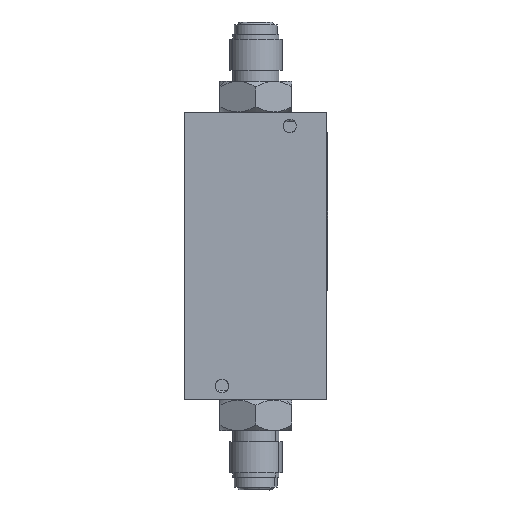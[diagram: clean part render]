
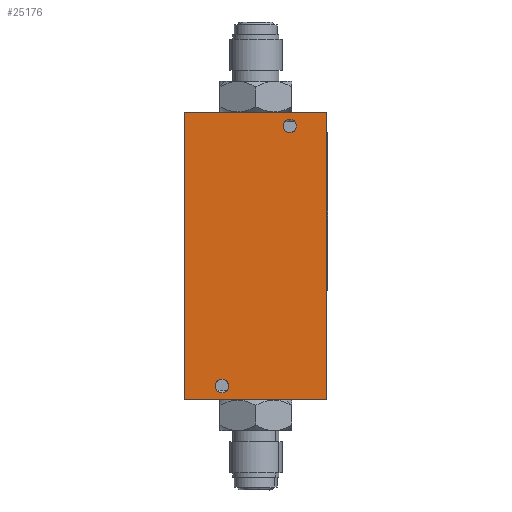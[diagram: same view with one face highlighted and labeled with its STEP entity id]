
A CAD part, front view. The second image highlights one B-rep face of the part: STEP entity #25176.
In plain terms, the highlighted planar face has unit normal (0, -1, 0).
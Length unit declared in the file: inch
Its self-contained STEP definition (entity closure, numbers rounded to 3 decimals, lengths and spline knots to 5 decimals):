
#1127 = EDGE_CURVE ( 'NONE', #116523, #55390, #65206, .T. ) ;
#1957 = CARTESIAN_POINT ( 'NONE',  ( 0., 0., 0. ) ) ;
#3648 = DIRECTION ( 'NONE',  ( 1., 0., 0. ) ) ;
#3760 = AXIS2_PLACEMENT_3D ( 'NONE', #82970, #93089, #28233 ) ;
#7534 = DIRECTION ( 'NONE',  ( 0., 1., 0. ) ) ;
#8928 = LINE ( 'NONE', #63059, #105878 ) ;
#10645 = CARTESIAN_POINT ( 'NONE',  ( -0.3539, 0., -2.7917 ) ) ;
#11962 = CARTESIAN_POINT ( 'NONE',  ( 0., 0., -3.006 ) ) ;
#13551 = ORIENTED_EDGE ( 'NONE', *, *, #80349, .T. ) ;
#21190 = VECTOR ( 'NONE', #42739, 39.37008 ) ;
#22920 = DIRECTION ( 'NONE',  ( 0., 1., 0. ) ) ;
#24344 = CIRCLE ( 'NONE', #111915, 0.0693 ) ;
#25130 = ORIENTED_EDGE ( 'NONE', *, *, #1127, .T. ) ;
#25176 = ADVANCED_FACE ( 'NONE', ( #111512, #92971, #48326 ), #113862, .T. ) ;
#26680 = AXIS2_PLACEMENT_3D ( 'NONE', #88761, #35192, #79221 ) ;
#28233 = DIRECTION ( 'NONE',  ( 0., 0., -1. ) ) ;
#29074 = ORIENTED_EDGE ( 'NONE', *, *, #71111, .T. ) ;
#30026 = CARTESIAN_POINT ( 'NONE',  ( -0.7425, 0., -3.006 ) ) ;
#34737 = ORIENTED_EDGE ( 'NONE', *, *, #112766, .T. ) ;
#35192 = DIRECTION ( 'NONE',  ( 0., 1., 0. ) ) ;
#37583 = LINE ( 'NONE', #1957, #54133 ) ;
#40421 = CIRCLE ( 'NONE', #107056, 0.0693 ) ;
#42739 = DIRECTION ( 'NONE',  ( 0., 0., -1. ) ) ;
#45711 = VERTEX_POINT ( 'NONE', #96838 ) ;
#46530 = VERTEX_POINT ( 'NONE', #10645 ) ;
#47732 = CARTESIAN_POINT ( 'NONE',  ( 0., 0., -1.503 ) ) ;
#48326 = FACE_BOUND ( 'NONE', #55923, .T. ) ;
#52655 = CARTESIAN_POINT ( 'NONE',  ( -0.3539, 0., -2.861 ) ) ;
#54133 = VECTOR ( 'NONE', #91750, 39.37008 ) ;
#55390 = VERTEX_POINT ( 'NONE', #30026 ) ;
#55923 = EDGE_LOOP ( 'NONE', ( #34737, #83582 ) ) ;
#59901 = DIRECTION ( 'NONE',  ( 0., 0., -1. ) ) ;
#60987 = CIRCLE ( 'NONE', #26680, 0.0693 ) ;
#61035 = DIRECTION ( 'NONE',  ( 0., 0., -1. ) ) ;
#63059 = CARTESIAN_POINT ( 'NONE',  ( 0.7425, 0., -1.503 ) ) ;
#63117 = VECTOR ( 'NONE', #3648, 39.37008 ) ;
#64058 = CARTESIAN_POINT ( 'NONE',  ( -0.7425, 0., 0. ) ) ;
#65206 = LINE ( 'NONE', #72333, #21190 ) ;
#65403 = VERTEX_POINT ( 'NONE', #89223 ) ;
#67443 = CARTESIAN_POINT ( 'NONE',  ( 0.354, 0., -0.2143 ) ) ;
#68037 = AXIS2_PLACEMENT_3D ( 'NONE', #47732, #94151, #85792 ) ;
#71111 = EDGE_CURVE ( 'NONE', #55390, #45711, #93408, .T. ) ;
#72333 = CARTESIAN_POINT ( 'NONE',  ( -0.7425, 0., -1.503 ) ) ;
#72454 = CARTESIAN_POINT ( 'NONE',  ( 0.7425, 0., 0. ) ) ;
#78245 = CARTESIAN_POINT ( 'NONE',  ( 0.354, 0., -0.145 ) ) ;
#79221 = DIRECTION ( 'NONE',  ( 0., 0., -1. ) ) ;
#79952 = ORIENTED_EDGE ( 'NONE', *, *, #91556, .T. ) ;
#80349 = EDGE_CURVE ( 'NONE', #88137, #116523, #37583, .T. ) ;
#82970 = CARTESIAN_POINT ( 'NONE',  ( -0.3539, 0., -2.861 ) ) ;
#83582 = ORIENTED_EDGE ( 'NONE', *, *, #83924, .T. ) ;
#83924 = EDGE_CURVE ( 'NONE', #46530, #65403, #106356, .T. ) ;
#85792 = DIRECTION ( 'NONE',  ( 0., 0., 1. ) ) ;
#88137 = VERTEX_POINT ( 'NONE', #72454 ) ;
#88761 = CARTESIAN_POINT ( 'NONE',  ( 0.354, 0., -0.145 ) ) ;
#89223 = CARTESIAN_POINT ( 'NONE',  ( -0.3539, 0., -2.9303 ) ) ;
#91556 = EDGE_CURVE ( 'NONE', #94824, #108806, #60987, .T. ) ;
#91750 = DIRECTION ( 'NONE',  ( -1., 0., 0. ) ) ;
#92971 = FACE_BOUND ( 'NONE', #98768, .T. ) ;
#93089 = DIRECTION ( 'NONE',  ( 0., 1., 0. ) ) ;
#93408 = LINE ( 'NONE', #11962, #63117 ) ;
#94151 = DIRECTION ( 'NONE',  ( 0., -1., 0. ) ) ;
#94824 = VERTEX_POINT ( 'NONE', #67443 ) ;
#94929 = ORIENTED_EDGE ( 'NONE', *, *, #109625, .T. ) ;
#96838 = CARTESIAN_POINT ( 'NONE',  ( 0.7425, 0., -3.006 ) ) ;
#98768 = EDGE_LOOP ( 'NONE', ( #79952, #94929 ) ) ;
#100423 = ORIENTED_EDGE ( 'NONE', *, *, #108528, .F. ) ;
#105878 = VECTOR ( 'NONE', #116654, 39.37008 ) ;
#106136 = EDGE_LOOP ( 'NONE', ( #13551, #25130, #29074, #100423 ) ) ;
#106356 = CIRCLE ( 'NONE', #3760, 0.0693 ) ;
#107056 = AXIS2_PLACEMENT_3D ( 'NONE', #52655, #7534, #61035 ) ;
#108528 = EDGE_CURVE ( 'NONE', #88137, #45711, #8928, .T. ) ;
#108806 = VERTEX_POINT ( 'NONE', #112780 ) ;
#109625 = EDGE_CURVE ( 'NONE', #108806, #94824, #24344, .T. ) ;
#111512 = FACE_OUTER_BOUND ( 'NONE', #106136, .T. ) ;
#111915 = AXIS2_PLACEMENT_3D ( 'NONE', #78245, #22920, #59901 ) ;
#112766 = EDGE_CURVE ( 'NONE', #65403, #46530, #40421, .T. ) ;
#112780 = CARTESIAN_POINT ( 'NONE',  ( 0.354, 0., -0.0757 ) ) ;
#113862 = PLANE ( 'NONE',  #68037 ) ;
#116523 = VERTEX_POINT ( 'NONE', #64058 ) ;
#116654 = DIRECTION ( 'NONE',  ( 0., 0., -1. ) ) ;
